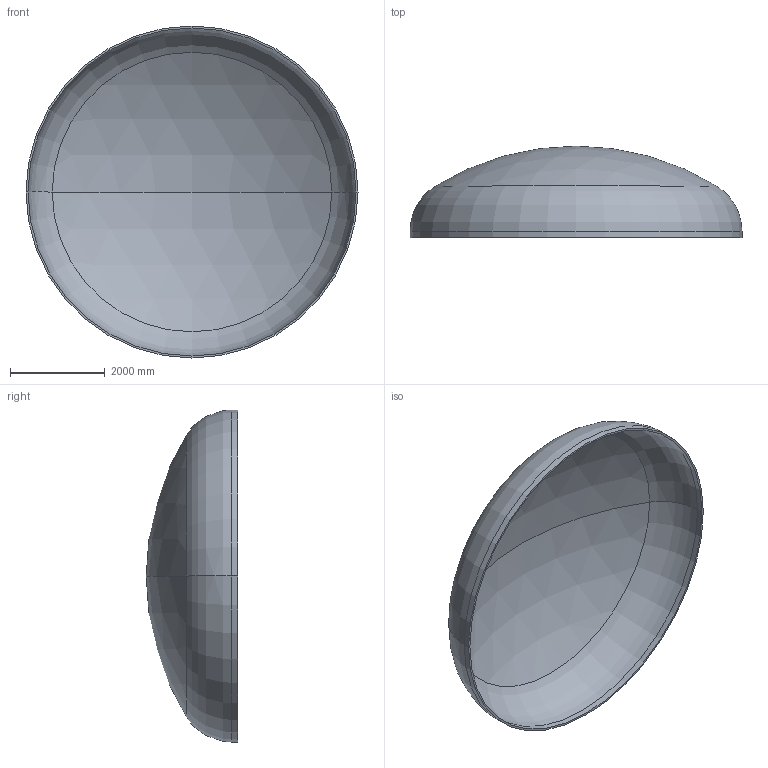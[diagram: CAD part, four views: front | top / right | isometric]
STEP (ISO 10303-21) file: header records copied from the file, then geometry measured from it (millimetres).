
FILE_DESCRIPTION (( 'STEP AP203' ), '1' );
FILE_NAME ('DIN 28013 Korbbogenform_-_Boden DIN 28013 - 7000 x 130 - I - s=41.step', '2016-07-04T10:47:17', ( '' ), ( '' ), 'SwSTEP 2.0', 'SolidWorks 2013', '' );
FILE_SCHEMA (( 'CONFIG_CONTROL_DESIGN' ));
Length unit declared in the file: millimetre
Products named in the file (1): DIN 28013 Korbbogenform_-_Boden DIN 28013 - 7000 x 130 - I - s=41
Bounding box: 7000 x 1927.73 x 7000 mm (x, y, z)
Volume: 2285826540.4 mm3; surface area: 112403567 mm2
Topology: 1 solids, 1 shells, 13 faces, 24 edges, 14 vertices
Faces by surface type: torus 4, cylinder 4, sphere 4, plane 1
Entity records: 407 total; most frequent: DIRECTION 72, CARTESIAN_POINT 52, ORIENTED_EDGE 48, AXIS2_PLACEMENT_3D 34, EDGE_CURVE 24, CIRCLE 20, VERTEX_POINT 14, EDGE_LOOP 14
